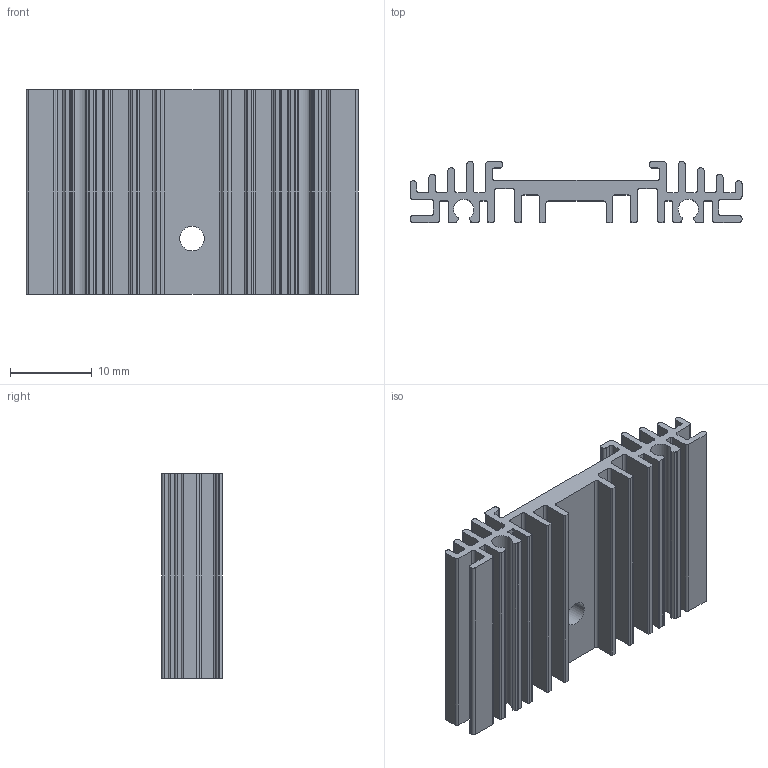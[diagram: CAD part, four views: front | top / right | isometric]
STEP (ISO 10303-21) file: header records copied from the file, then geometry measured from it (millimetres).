
FILE_DESCRIPTION(('STEP AP214'),'1');
FILE_NAME('RX580-209-0.stp','2022-09-22T12:24:42',(' '),(' '),'Spatial InterOp 3D',' ',' ');
FILE_SCHEMA(('AUTOMOTIVE_DESIGN { 1 0 10303 214 1 1 1 1 }'));
Length unit declared in the file: metre
Products named in the file (1): 实体
Bounding box: 40.64 x 7.44 x 25 mm (x, y, z)
Volume: 2850.8 mm3; surface area: 5650 mm2
Topology: 1 solids, 1 shells, 205 faces, 609 edges, 406 vertices
Faces by surface type: cylinder 109, plane 96
Entity records: 6970 total; most frequent: DIRECTION 1239, CARTESIAN_POINT 1221, ORIENTED_EDGE 1218, EDGE_CURVE 609, AXIS2_PLACEMENT_3D 424, VERTEX_POINT 406, LINE 391, VECTOR 391
